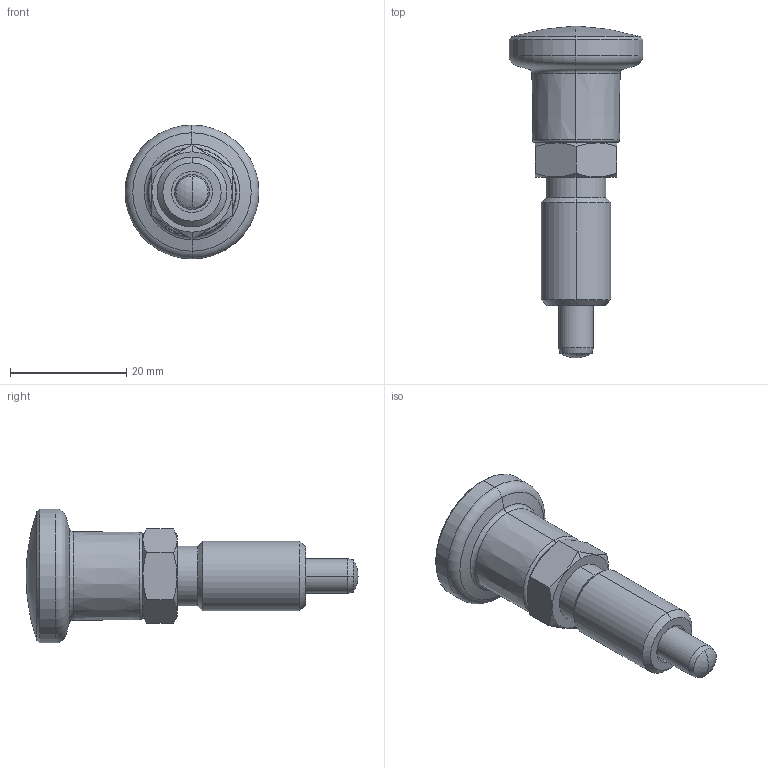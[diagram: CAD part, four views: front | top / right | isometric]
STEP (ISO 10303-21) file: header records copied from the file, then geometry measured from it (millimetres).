
FILE_DESCRIPTION (( 'STEP AP214' ), '1' );
FILE_NAME ('817-6-9-C-NI.step', '2022-08-31T07:08:18', ( '' ), ( '' ), 'SwSTEP 2.0', 'SolidWorks 2022', '' );
FILE_SCHEMA (( 'AUTOMOTIVE_DESIGN' ));
Length unit declared in the file: millimetre
Products named in the file (3): WB817_Bolzen^WB817_Gr.6-9-C-NI; WB817_Führung^WB817_6-9-C-NI; 817-6-9-C-NI
Assembly tree (2 placements, depth 2):
  817-6-9-C-NI
    WB817_Führung^WB817_6-9-C-NI
    WB817_Bolzen^WB817_Gr.6-9-C-NI
Bounding box: 23 x 57 x 23 mm (x, y, z)
Volume: 7873.6 mm3; surface area: 6063.4 mm2
Topology: 2 solids, 2 shells, 90 faces, 210 edges, 132 vertices
Faces by surface type: plane 34, cylinder 26, cone 16, sphere 8, torus 6
Entity records: 3796 total; most frequent: CARTESIAN_POINT 561, DIRECTION 498, ORIENTED_EDGE 420, EDGE_CURVE 210, AXIS2_PLACEMENT_3D 205, VERTEX_POINT 132, CIRCLE 110, EDGE_LOOP 100
